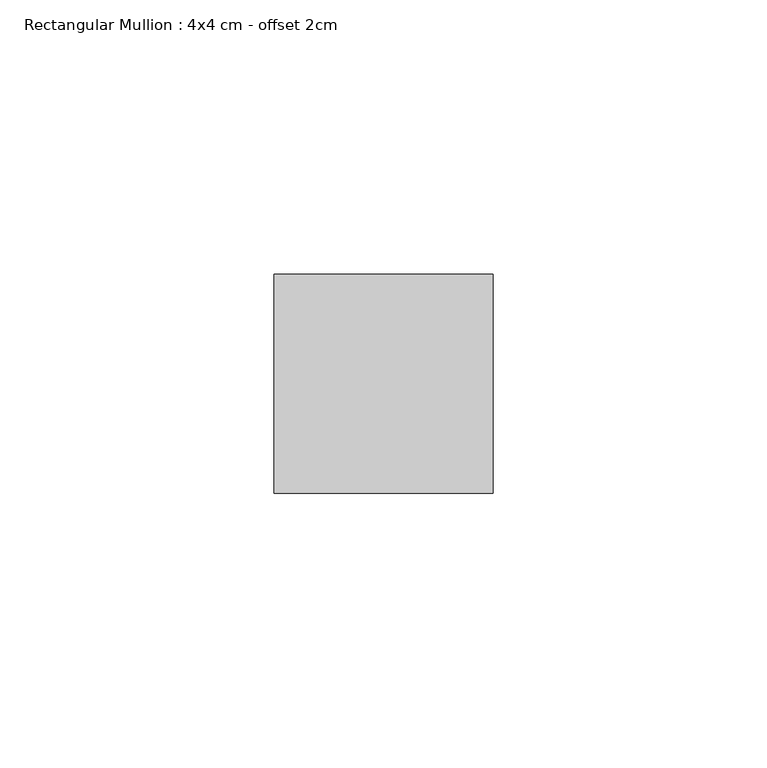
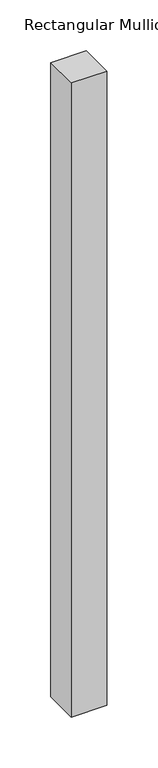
"""IFC4 building model written with IfcOpenShell, lengths in millimetres: member geometry, Rectangular Mullion : 4x4 cm - offset 2cm."""

import ifcopenshell
import ifcopenshell.guid

model = None  # the IFC model being written
_history = None  # IfcOwnerHistory: only IFC2X3 demands one
_inside = {}  # id of a spatial element -> (the spatial element, [elements in it])
_under = {}  # id of a project, library or spatial element -> (it, [spatial elements below it])
_declared = {}  # id of a project -> (the project, [libraries it declares])
_typed = {}  # id of a type object -> (the type object, [elements of that type])
_made_of = {}  # id of a material, layer set ... -> (it, [elements and type objects made of it])


def new_model(schema):
    """Start an empty IFC model of exactly this schema.

    Asked for "IFC4X3", IfcOpenShell would pick the latest addendum, in which some entities
    have other attributes; the version numbers below select the first issue.
    IFC2X3 requires an IfcOwnerHistory on every rooted entity: one is made here for all.
    """
    global model, _history
    if schema == "IFC4X3":
        model = ifcopenshell.file(schema_version=(4, 3, 0, 0))
    else:
        model = ifcopenshell.file(schema=schema)
    _inside.clear()
    _under.clear()
    _declared.clear()
    _typed.clear()
    _made_of.clear()
    _history = None
    if model.schema == "IFC2X3":
        org = make("IfcOrganization", Name="unknown")
        user = make(
            "IfcPersonAndOrganization",
            ThePerson=make("IfcPerson", FamilyName="unknown"),
            TheOrganization=org,
        )
        app = make(
            "IfcApplication",
            ApplicationDeveloper=org,
            Version="unknown",
            ApplicationFullName="unknown",
            ApplicationIdentifier="unknown",
        )
        _history = make(
            "IfcOwnerHistory",
            OwningUser=user,
            OwningApplication=app,
            ChangeAction="ADDED",
            CreationDate=0,
        )
    return model


def make(cls, **values):
    """One entity of the class cls with the attributes given. An attribute that is None is left unset."""
    return model.create_entity(
        cls, **{name: value for name, value in values.items() if value is not None}
    )


def rooted(cls, **values):
    """An entity with a GlobalId (a new one), such as an element, a storey or a relation."""
    return make(cls, GlobalId=ifcopenshell.guid.new(), OwnerHistory=_history, **values)


def si_unit(unit_type, name, prefix=None):
    """IfcSIUnit, for example si_unit("LENGTHUNIT", "METRE", prefix="MILLI")."""
    return make("IfcSIUnit", UnitType=unit_type, Prefix=prefix, Name=name)


def assignment(units):
    """IfcUnitAssignment: the units of a project."""
    return None if units is None else make("IfcUnitAssignment", Units=units)


def point(xyz):
    """IfcCartesianPoint."""
    return None if xyz is None else make("IfcCartesianPoint", Coordinates=xyz)


def direction(xyz):
    """IfcDirection."""
    return None if xyz is None else make("IfcDirection", DirectionRatios=xyz)


def frame(location, z_axis=None, x_axis=None):
    """IfcAxis2Placement3D, a coordinate frame: its origin and axes. An axis left out is left unset."""
    return make(
        "IfcAxis2Placement3D",
        Location=point(location),
        Axis=direction(z_axis),
        RefDirection=direction(x_axis),
    )


def origin():
    """The frame at (0, 0, 0) with its axes left unset."""
    return frame((0.0, 0.0, 0.0))


def place(relative_to, where):
    """IfcLocalPlacement: puts the frame where relative to a parent placement (None: the world)."""
    return make(
        "IfcLocalPlacement", PlacementRelTo=relative_to, RelativePlacement=where
    )


def context(
    kind, dimensions, precision=None, world=None, true_north=None, identifier=None
):
    """IfcGeometricRepresentationContext, for example the 3D "Model" context."""
    return make(
        "IfcGeometricRepresentationContext",
        ContextIdentifier=identifier,
        ContextType=kind,
        CoordinateSpaceDimension=dimensions,
        Precision=precision,
        WorldCoordinateSystem=world,
        TrueNorth=true_north,
    )


def project(units=None, contexts=None):
    """IfcProject with its units and contexts."""
    return rooted(
        "IfcProject",
        Name="project",
        RepresentationContexts=contexts,
        UnitsInContext=assignment(units),
    )


def spatial(cls, under=None, at=None, **own):
    """A site, building, storey or space (cls), placed at a placement, below another one or the project."""
    s = rooted(cls, ObjectPlacement=at, **own)
    if under is not None:
        _under.setdefault(under.id(), (under, []))[1].append(s)
    return s


def polyline(points):
    """IfcPolyline through the points."""
    return make("IfcPolyline", Points=[point(p) for p in points])


def outline(outer, holes=None, kind="AREA"):
    """IfcArbitraryClosedProfileDef: a profile drawn as a closed curve; with holes, ...WithVoids."""
    if holes is None:
        return make("IfcArbitraryClosedProfileDef", ProfileType=kind, OuterCurve=outer)
    return make(
        "IfcArbitraryProfileDefWithVoids",
        ProfileType=kind,
        OuterCurve=outer,
        InnerCurves=holes,
    )


def extrude(swept, where, along, depth):
    """IfcExtrudedAreaSolid: the profile swept, set in the frame where, extruded along a direction by depth."""
    return make(
        "IfcExtrudedAreaSolid",
        SweptArea=swept,
        Position=where,
        ExtrudedDirection=direction(along),
        Depth=depth,
    )


def shape(context_of_items, identifier, shape_type, items):
    """IfcShapeRepresentation: the items that make up one representation, for example the "Body"."""
    return make(
        "IfcShapeRepresentation",
        ContextOfItems=context_of_items,
        RepresentationIdentifier=identifier,
        RepresentationType=shape_type,
        Items=items,
    )


def source(mapping_origin, context_of_items, identifier, shape_type, items):
    """IfcRepresentationMap: a shape defined once, which mapped items show again and again."""
    return make(
        "IfcRepresentationMap",
        MappingOrigin=mapping_origin,
        MappedRepresentation=shape(context_of_items, identifier, shape_type, items),
    )


def transform(
    local_origin,
    x_axis=None,
    y_axis=None,
    z_axis=None,
    scale=None,
    scale2=None,
    scale3=None,
    uniform=True,
):
    """IfcCartesianTransformationOperator3D, or its non-uniform kind. x_axis, y_axis, z_axis: its Axis1, 2, 3."""
    if uniform:
        return make(
            "IfcCartesianTransformationOperator3D",
            Axis1=direction(x_axis),
            Axis2=direction(y_axis),
            LocalOrigin=point(local_origin),
            Scale=scale,
            Axis3=direction(z_axis),
        )
    return make(
        "IfcCartesianTransformationOperator3DnonUniform",
        Axis1=direction(x_axis),
        Axis2=direction(y_axis),
        LocalOrigin=point(local_origin),
        Scale=scale,
        Axis3=direction(z_axis),
        Scale2=scale2,
        Scale3=scale3,
    )


def mapped(mapping_source, mapping_target):
    """IfcMappedItem: shows the shape of a source again, moved by a transform."""
    return make(
        "IfcMappedItem", MappingSource=mapping_source, MappingTarget=mapping_target
    )


def made_of(thing, what):
    """Note that an element or type object is made of a material, layer set ...; save() writes the relation."""
    if what is not None:
        _made_of.setdefault(what.id(), (what, []))[1].append(thing)
    return thing


def element(
    cls,
    number,
    at=None,
    inside=None,
    cuts=None,
    type_object=None,
    material=None,
    context=None,
    identifier="Body",
    shape_type=None,
    held_by="IfcProductDefinitionShape",
    body=None,
    shapes=None,
    **own,
):
    """One element of the class cls, such as IfcWall. Its Tag is "e" and its number.

    at: its placement. inside: the storey or other place that contains it. cuts: it is an
    opening in that element (IfcRelVoidsElement). A single representation is given by context,
    identifier, shape_type and body (its items); several are given by shapes. held_by: the class
    of the entity that holds the representations. save() writes the other relations.
    """
    e = rooted(cls, Tag="e%d" % number, ObjectPlacement=at, **own)
    if body is not None:
        shapes = [shape(context, identifier, shape_type, body)]
    if shapes is not None:
        e.Representation = make(held_by, Representations=shapes)
    if inside is not None:
        _inside.setdefault(inside.id(), (inside, []))[1].append(e)
    if cuts is not None:
        rooted(
            "IfcRelVoidsElement", RelatingBuildingElement=cuts, RelatedOpeningElement=e
        )
    if type_object is not None:
        _typed.setdefault(type_object.id(), (type_object, []))[1].append(e)
    return made_of(e, material)


def aggregate(whole, parts):
    """IfcRelAggregates: a whole, such as a stair, and the parts it consists of."""
    return rooted("IfcRelAggregates", RelatingObject=whole, RelatedObjects=parts)


def save(model, path):
    """Write the relations noted so far, then the file.

    IfcRelAggregates (storeys below a building ...), IfcRelContainedInSpatialStructure (elements
    in a storey), IfcRelDefinesByType, IfcRelAssociatesMaterial and IfcRelDeclares: one each for
    every whole, place, type object, material and project.
    """
    for whole, parts in _under.values():
        aggregate(whole, parts)
    for where, things in _inside.values():
        rooted(
            "IfcRelContainedInSpatialStructure",
            RelatedElements=things,
            RelatingStructure=where,
        )
    for kind, things in _typed.values():
        rooted("IfcRelDefinesByType", RelatedObjects=things, RelatingType=kind)
    for what, things in _made_of.values():
        rooted("IfcRelAssociatesMaterial", RelatedObjects=things, RelatingMaterial=what)
    for by, libraries in _declared.values():
        rooted("IfcRelDeclares", RelatingContext=by, RelatedDefinitions=libraries)
    model.write(path)


def rectangular_mullion_4x4_cm_offset_2cm_83326fac(model_context):
    return source(origin(), model_context, "Body", "SweptSolid", [
        extrude(outline(polyline([(40.0, 40.0), (40.0, 0.0), (0.0, 0.0), (0.0, 40.0), (40.0, 40.0)])), frame((0.0, 0.0, -759.9999997), z_axis=(0.0, 0.0, 1.0), x_axis=(1.0, 0.0, 0.0)), (0.0, 0.0, 1.0), 759.9999997),
    ])


if __name__ == "__main__":
    model = new_model("IFC4")
    model_context = context("Model", 3, world=origin())
    ifc_project = project(units=[si_unit("LENGTHUNIT", "METRE", prefix="MILLI")], contexts=[model_context])
    site = spatial("IfcSite", under=ifc_project)
    building = spatial("IfcBuilding", under=site)
    placement = place(None, origin())
    rectangular_mullion_4x4_cm_offset_2cm_shape = rectangular_mullion_4x4_cm_offset_2cm_83326fac(model_context)
    element("IfcMember", 1, ObjectType="Rectangular Mullion : 4x4 cm - offset 2cm", at=placement, inside=building, context=model_context, shape_type="MappedRepresentation", body=[
        mapped(rectangular_mullion_4x4_cm_offset_2cm_shape, transform((0.0, 0.0, 0.0), x_axis=(1.0, 0.0, 0.0), y_axis=(0.0, 1.0, 0.0), z_axis=(0.0, 0.0, 1.0))),
    ])
    save(model, "model.ifc")
